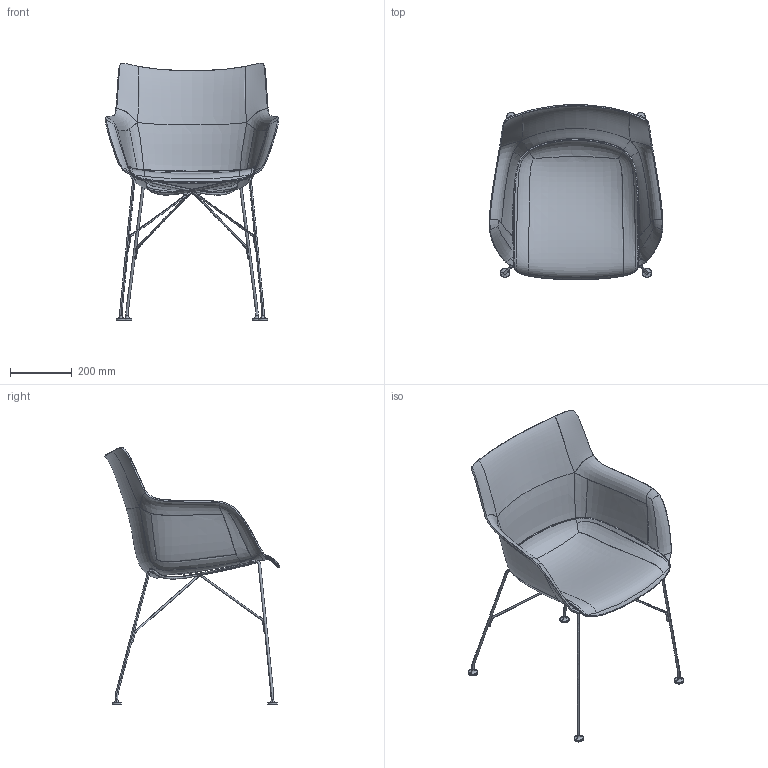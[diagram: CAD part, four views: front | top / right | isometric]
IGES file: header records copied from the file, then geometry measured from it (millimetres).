
Global section: file name: C:\Users\rendering\Desktop\3D\Woody\Woody_3D_Philippe Starck_Kartell.igs; native system: Rhinoceros ( May 22 2017 ); preprocessor: Trout Lake IGES 012 May 22 2017; date: 190227.094433; units: millimetre
Bounding box: 563.86 x 567.82 x 835.83 mm (x, y, z)
Surface area: 1281889.2 mm2 (no closed solid volume)
Topology: 0 solids, 0 shells, 251 faces, 4374 edges, 4374 vertices
Faces by surface type: bspline 251
